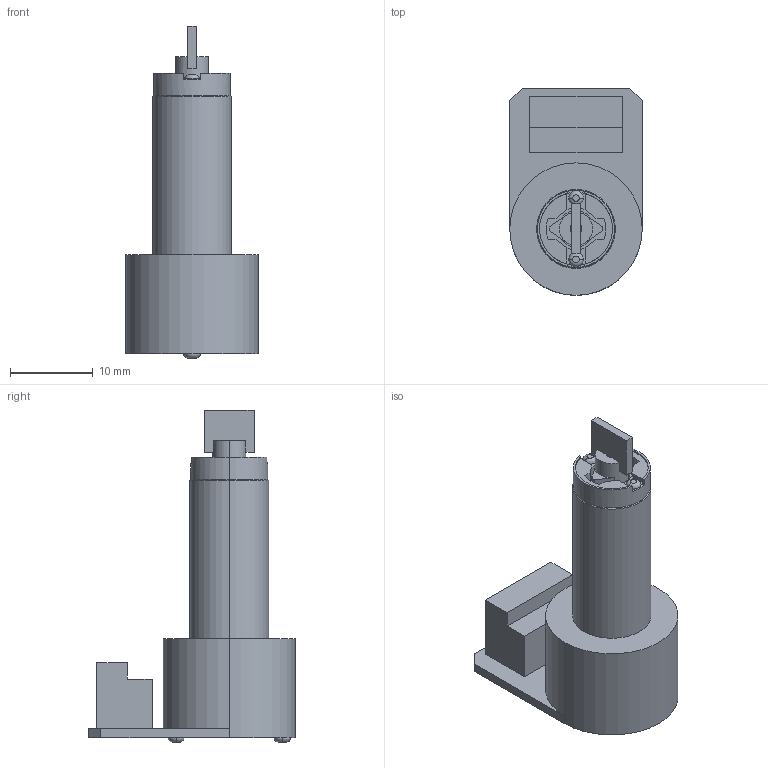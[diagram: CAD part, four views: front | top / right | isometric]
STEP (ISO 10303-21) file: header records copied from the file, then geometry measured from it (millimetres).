
FILE_DESCRIPTION (( 'STEP AP214' ), '1' );
FILE_NAME ('2002204_GVM-0930L-0010M GM7X.STEP', '2024-06-27T07:40:31', ( '' ), ( '' ), 'SwSTEP 2.0', 'SolidWorks 2022', '' );
FILE_SCHEMA (( 'AUTOMOTIVE_DESIGN' ));
Length unit declared in the file: millimetre
Products named in the file (5): 502-136a_GM7; 2002204_GVM-0930L-0010M GM7X; 2002201_GVM-0930L-00100; 501-067_GM7X; 2001825_GM7X(0930L用)
Assembly tree (4 placements, depth 3):
  2002204_GVM-0930L-0010M GM7X
    2002201_GVM-0930L-00100
    2001825_GM7X(0930L用)
      502-136a_GM7
      501-067_GM7X
Bounding box: 16 x 25 x 40.1 mm (x, y, z)
Volume: 4697.9 mm3; surface area: 2612.3 mm2
Topology: 5 solids, 5 shells, 115 faces, 288 edges, 188 vertices
Faces by surface type: plane 73, cylinder 30, torus 8, cone 4
Entity records: 3658 total; most frequent: DIRECTION 644, CARTESIAN_POINT 599, ORIENTED_EDGE 576, EDGE_CURVE 288, AXIS2_PLACEMENT_3D 233, VERTEX_POINT 188, VECTOR 178, LINE 178
